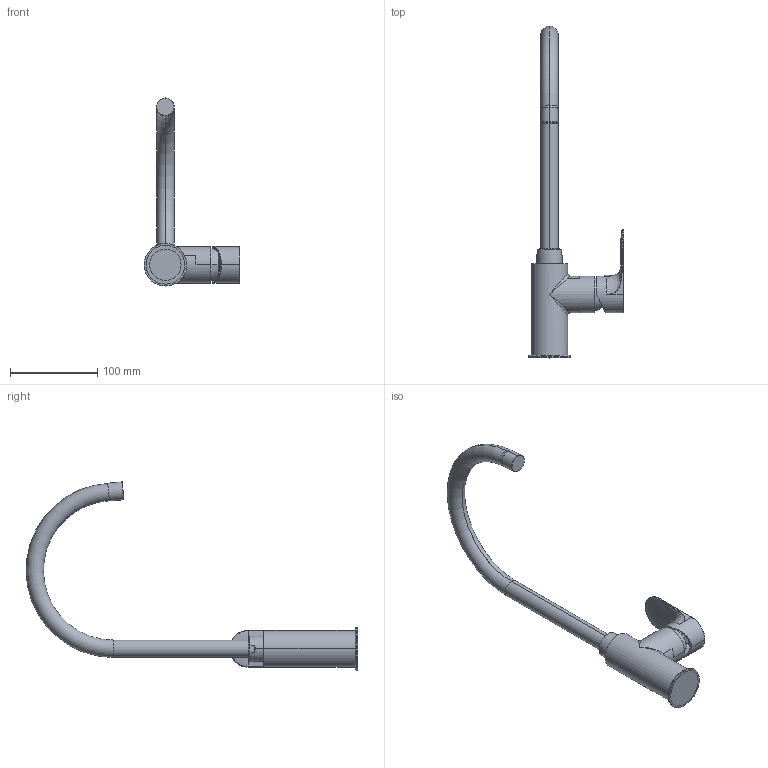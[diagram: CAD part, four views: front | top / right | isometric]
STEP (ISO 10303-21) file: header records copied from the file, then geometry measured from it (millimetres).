
FILE_DESCRIPTION((''),'2;1');
FILE_NAME('64165','2020-06-05T08:58:39',('volponeff'),(''),'CREO PARAMETRIC BY PTC INC, 2018100','CREO PARAMETRIC BY PTC INC, 2018100','');
FILE_SCHEMA(('CONFIG_CONTROL_DESIGN'));
Length unit declared in the file: millimetre
Products named in the file (1): 64165
Bounding box: 109.8 x 380.85 x 215.87 mm (x, y, z)
Volume: 153960.1 mm3; surface area: 125805.2 mm2
Topology: 3 solids, 5 shells, 436 faces, 983 edges, 579 vertices
Faces by surface type: cylinder 154, plane 87, cone 82, bspline 58, torus 41, sphere 12, extrusion 2
Entity records: 18907 total; most frequent: CARTESIAN_POINT 9575, ORIENTED_EDGE 1942, DIRECTION 1922, EDGE_CURVE 971, AXIS2_PLACEMENT_3D 801, VERTEX_POINT 579, EDGE_LOOP 476, FACE_OUTER_BOUND 436
